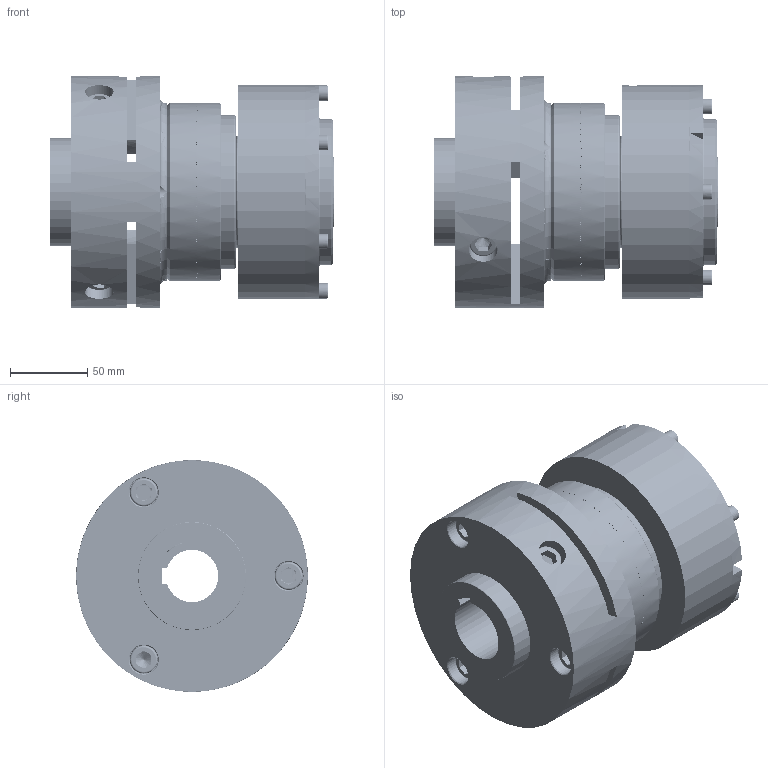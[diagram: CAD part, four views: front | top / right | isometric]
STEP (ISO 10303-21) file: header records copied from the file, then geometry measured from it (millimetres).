
FILE_DESCRIPTION(/* description */ (''),/* implementation_level */ '2;1');
FILE_NAME(/* name */ 'X:\INVENTOR\DISEGNI\03_Friz_Oleod_Pneum_Cil_Stat\03_62 DPG-N\03_62_02_01 DPG-N02\03_62_02_01 DPG-N02@STEP.stp',/* time_stamp */ '2023-02-06T11:47:22+01:00',/* author */ ('alessio'),/* organization */ (''),/* preprocessor_version */ 'ST-DEVELOPER v18.1',/* originating_system */ 'Autodesk Inventor 2021',/* authorisation */ '');
FILE_SCHEMA (('AUTOMOTIVE_DESIGN { 1 0 10303 214 3 1 1 }'));
Products named in the file (1): 03_62_02_01 DPG-N02
Bounding box: 184 x 150 x 150 mm (x, y, z)
Volume: 1867525.6 mm3; surface area: 406635.8 mm2
Topology: 1 solids, 31 shells, 3507 faces, 10581 edges, 7007 vertices
Faces by surface type: plane 2360, cylinder 464, torus 271, bspline 241, cone 130, sphere 41
Full cylindrical faces by diameter (mm): 2.5 x4, 3 x2, 3.5 x2, 4.917 x9, 5 x3, 5.25 x3, 6 x10, 6.5 x9, 7.5 x18, 8.566 x1, 10 x9, 10.106 x6, 10.5 x3, 12 x6, 12.5 x6, 18 x6, 18.5 x6, 42.5 x2, 45 x8, 54 x1, 54.6 x4, 55 x1, 55.5 x1, 57.8 x2, 60 x1, 64.5 x1, 65 x2, 65.4 x4, 66.5 x1, 67 x1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
Entity records: 159683 total; most frequent: CARTESIAN_POINT 58506, DIRECTION 22073, ORIENTED_EDGE 20948, EDGE_CURVE 10474, AXIS2_PLACEMENT_3D 9549, VERTEX_POINT 7007, EDGE_LOOP 3778, FACE_OUTER_BOUND 3507
